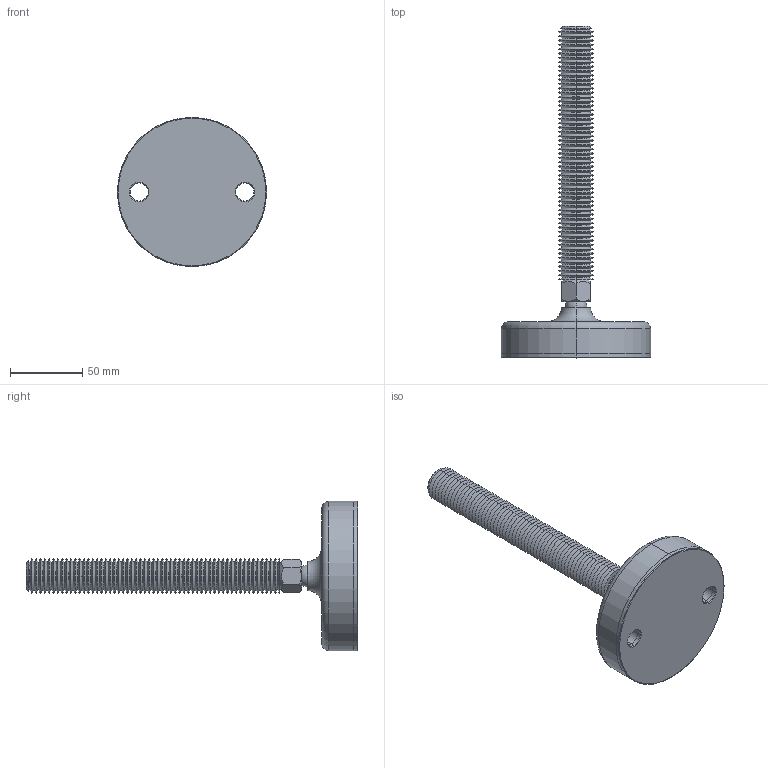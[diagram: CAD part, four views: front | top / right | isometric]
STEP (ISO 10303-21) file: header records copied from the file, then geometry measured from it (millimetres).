
FILE_DESCRIPTION (( 'STEP AP203' ), '1' );
FILE_NAME ('34724.W2404.step', '2019-11-28T22:20:53', ( '' ), ( '' ), 'SwSTEP 2.0', 'SolidWorks 2017', '' );
FILE_SCHEMA (( 'CONFIG_CONTROL_DESIGN' ));
Length unit declared in the file: millimetre
Products named in the file (4): Part2_34724.W2404; 34724.W2404; Part3_34724.W2404; Part1_34724.W2404
Assembly tree (3 placements, depth 2):
  34724.W2404
    Part1_34724.W2404
    Part2_34724.W2404
    Part3_34724.W2404
Bounding box: 103 x 229 x 103 mm (x, y, z)
Volume: 274084.6 mm3; surface area: 67825.7 mm2
Topology: 3 solids, 3 shells, 284 faces, 583 edges, 305 vertices
Faces by surface type: cone 250, plane 14, cylinder 12, sphere 4, torus 4
Entity records: 7766 total; most frequent: DIRECTION 1436, CARTESIAN_POINT 1316, ORIENTED_EDGE 1148, AXIS2_PLACEMENT_3D 584, EDGE_CURVE 574, VERTEX_POINT 300, EDGE_LOOP 296, CIRCLE 294
